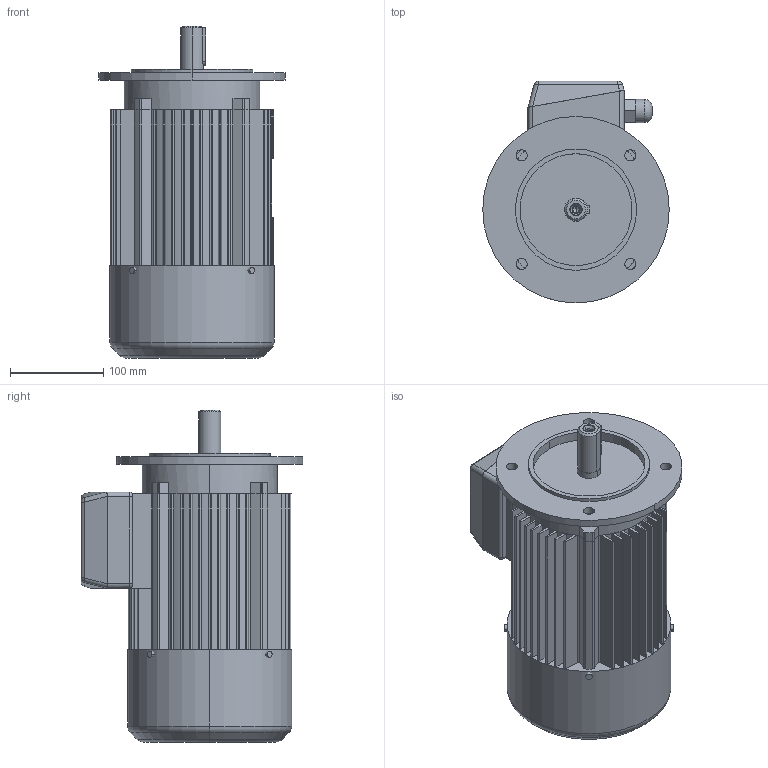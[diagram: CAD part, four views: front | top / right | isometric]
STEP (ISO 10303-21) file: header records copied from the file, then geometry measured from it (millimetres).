
FILE_DESCRIPTION (( 'STEP AP203' ), '1' );
FILE_NAME ('2SIEK90L4,6.STEP', '2012-10-26T11:54:51', ( 'INDUKTA' ), ( 'CANTONI MOTOR' ), 'SwSTEP 2.0', 'SolidWorks 2003064', '' );
FILE_SCHEMA (( 'CONFIG_CONTROL_DESIGN' ));
Length unit declared in the file: millimetre
Products named in the file (1): 2SIEK90L4,6
Bounding box: 200 x 238 x 356 mm (x, y, z)
Volume: 6875534.4 mm3; surface area: 527433.4 mm2
Topology: 11 solids, 11 shells, 367 faces, 977 edges, 631 vertices
Faces by surface type: cylinder 175, plane 166, cone 12, torus 10, sphere 4
Entity records: 11545 total; most frequent: DIRECTION 2085, CARTESIAN_POINT 2031, ORIENTED_EDGE 1942, EDGE_CURVE 971, AXIS2_PLACEMENT_3D 757, VERTEX_POINT 631, VECTOR 571, LINE 571
